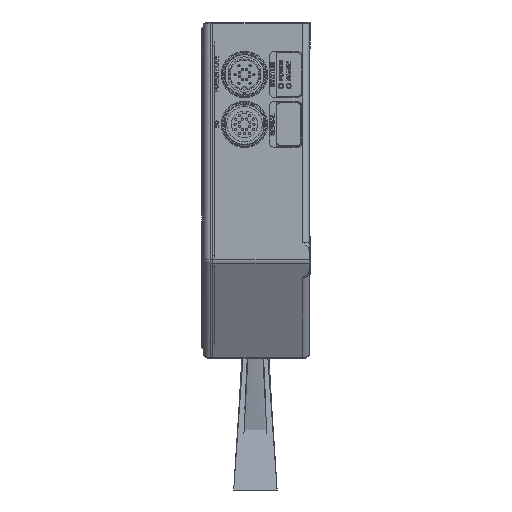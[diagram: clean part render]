
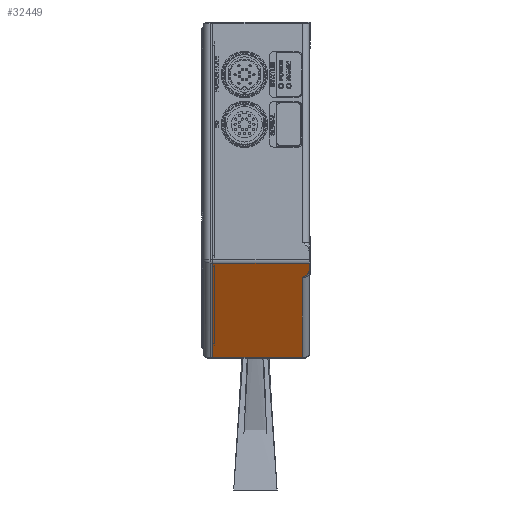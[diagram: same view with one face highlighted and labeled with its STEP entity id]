
A CAD part, left-side view. The second image highlights one B-rep face of the part: STEP entity #32449.
In plain terms, the highlighted planar face has unit normal (-0.866, 0, -0.5).
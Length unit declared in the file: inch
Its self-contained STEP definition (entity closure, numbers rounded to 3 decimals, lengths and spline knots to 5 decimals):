
#1449 = B_SPLINE_CURVE_WITH_KNOTS ( 'NONE', 3,
 ( #34254, #44490, #19051, #39728, #59904, #60349, #55337, #3740, #34031, #8963, #34923, #8743, #24267, #45137, #60568, #3967, #29247, #14136, #54899, #65519, #13691, #40148, #50315, #23811, #60119, #3315, #65285, #65071, #3096, #49874, #34482, #28822, #45365, #19260, #55573, #24035 ),
 .UNSPECIFIED., .F., .F.,
 ( 4, 1, 1, 1, 1, 1, 2, 2, 1, 1, 1, 1, 2, 2, 1, 1, 1, 1, 2, 2, 1, 1, 1, 2, 2, 4 ),
 ( 0., 0.0625, 0.09375, 0.10937, 0.11719, 0.12109, 0.12305, 0.125, 0.1875, 0.21875, 0.23437, 0.24219, 0.24609, 0.25, 0.375, 0.4375, 0.46875, 0.48437, 0.49219, 0.5, 0.625, 0.6875, 0.71875, 0.73437, 0.75, 1. ),
 .UNSPECIFIED. ) ;
#2640 = DIRECTION ( 'NONE',  ( -0.5, 0., 0.866 ) ) ;
#2841 = ORIENTED_EDGE ( 'NONE', *, *, #55407, .T. ) ;
#3096 = CARTESIAN_POINT ( 'NONE',  ( -3.37333, 0.03582, -0.3135 ) ) ;
#3315 = CARTESIAN_POINT ( 'NONE',  ( -3.35839, 0.05701, -0.33938 ) ) ;
#3740 = CARTESIAN_POINT ( 'NONE',  ( -3.33506, 0.11628, -0.37979 ) ) ;
#3967 = CARTESIAN_POINT ( 'NONE',  ( -3.34173, 0.0955, -0.36824 ) ) ;
#5754 = EDGE_CURVE ( 'NONE', #41004, #11049, #39703, .T. ) ;
#7724 = VERTEX_POINT ( 'NONE', #15791 ) ;
#8487 = CARTESIAN_POINT ( 'NONE',  ( -3.32877, 0.1378, -0.39068 ) ) ;
#8743 = CARTESIAN_POINT ( 'NONE',  ( -3.33812, 0.10631, -0.37449 ) ) ;
#8963 = CARTESIAN_POINT ( 'NONE',  ( -3.33511, 0.11609, -0.3797 ) ) ;
#10609 = DIRECTION ( 'NONE',  ( 0., 1., 0. ) ) ;
#10890 = VERTEX_POINT ( 'NONE', #51624 ) ;
#10961 = CARTESIAN_POINT ( 'NONE',  ( -3.40446, 0.18895, -0.25959 ) ) ;
#11049 = VERTEX_POINT ( 'NONE', #63626 ) ;
#12954 = DIRECTION ( 'NONE',  ( -0.5, 0., 0.866 ) ) ;
#13102 = EDGE_CURVE ( 'NONE', #10890, #15463, #55150, .T. ) ;
#13691 = CARTESIAN_POINT ( 'NONE',  ( -3.35358, 0.06617, -0.34771 ) ) ;
#14136 = CARTESIAN_POINT ( 'NONE',  ( -3.34191, 0.09496, -0.36792 ) ) ;
#15463 = VERTEX_POINT ( 'NONE', #32516 ) ;
#15526 = CARTESIAN_POINT ( 'NONE',  ( -3.47827, 0.15748, -0.13174 ) ) ;
#15791 = CARTESIAN_POINT ( 'NONE',  ( -3.40446, 0.01969, -0.25959 ) ) ;
#16004 = EDGE_CURVE ( 'NONE', #32023, #28263, #41053, .T. ) ;
#19051 = CARTESIAN_POINT ( 'NONE',  ( -3.33198, 0.12666, -0.38512 ) ) ;
#19260 = CARTESIAN_POINT ( 'NONE',  ( -3.38786, 0.02314, -0.28833 ) ) ;
#19483 = ORIENTED_EDGE ( 'NONE', *, *, #35291, .T. ) ;
#20917 = VECTOR ( 'NONE', #53561, 39.37008 ) ;
#23811 = CARTESIAN_POINT ( 'NONE',  ( -3.35787, 0.05794, -0.34028 ) ) ;
#24035 = CARTESIAN_POINT ( 'NONE',  ( -3.40446, 0.01969, -0.25959 ) ) ;
#24267 = CARTESIAN_POINT ( 'NONE',  ( -3.34009, 0.10032, -0.37108 ) ) ;
#26499 = ORIENTED_EDGE ( 'NONE', *, *, #13102, .F. ) ;
#28263 = VERTEX_POINT ( 'NONE', #8487 ) ;
#28822 = CARTESIAN_POINT ( 'NONE',  ( -3.37892, 0.03054, -0.30382 ) ) ;
#29247 = CARTESIAN_POINT ( 'NONE',  ( -3.34186, 0.09511, -0.36801 ) ) ;
#29392 = DIRECTION ( 'NONE',  ( 0.866, 0., 0.5 ) ) ;
#30187 = ORIENTED_EDGE ( 'NONE', *, *, #5754, .T. ) ;
#32023 = VERTEX_POINT ( 'NONE', #61446 ) ;
#32387 = VECTOR ( 'NONE', #2640, 39.37008 ) ;
#32449 = ADVANCED_FACE ( 'NONE', ( #64126 ), #60929, .F. ) ;
#32516 = CARTESIAN_POINT ( 'NONE',  ( -3.47827, 1.73425, -0.13174 ) ) ;
#32862 = CARTESIAN_POINT ( 'NONE',  ( -3.40446, 0.01575, -0.25959 ) ) ;
#33948 = CARTESIAN_POINT ( 'NONE',  ( -2.50841, 1.73425, -1.81159 ) ) ;
#34031 = CARTESIAN_POINT ( 'NONE',  ( -3.3351, 0.11612, -0.37971 ) ) ;
#34254 = CARTESIAN_POINT ( 'NONE',  ( -3.32877, 0.1378, -0.39068 ) ) ;
#34482 = CARTESIAN_POINT ( 'NONE',  ( -3.37798, 0.03136, -0.30545 ) ) ;
#34923 = CARTESIAN_POINT ( 'NONE',  ( -3.33636, 0.11197, -0.37754 ) ) ;
#35291 = EDGE_CURVE ( 'NONE', #7724, #41004, #51628, .T. ) ;
#37886 = VECTOR ( 'NONE', #62110, 39.37008 ) ;
#37897 = DIRECTION ( 'NONE',  ( -0.5, 0., 0.866 ) ) ;
#39494 = CARTESIAN_POINT ( 'NONE',  ( -3.49409, 0.01575, -0.10433 ) ) ;
#39703 = LINE ( 'NONE', #39494, #32387 ) ;
#39728 = CARTESIAN_POINT ( 'NONE',  ( -3.33371, 0.1208, -0.38213 ) ) ;
#40148 = CARTESIAN_POINT ( 'NONE',  ( -3.35607, 0.06127, -0.34339 ) ) ;
#40498 = ORIENTED_EDGE ( 'NONE', *, *, #52241, .T. ) ;
#41004 = VERTEX_POINT ( 'NONE', #32862 ) ;
#41053 = LINE ( 'NONE', #48731, #48305 ) ;
#44411 = ORIENTED_EDGE ( 'NONE', *, *, #16004, .T. ) ;
#44477 = AXIS2_PLACEMENT_3D ( 'NONE', #61147, #29392, #45728 ) ;
#44490 = CARTESIAN_POINT ( 'NONE',  ( -3.33015, 0.13299, -0.38829 ) ) ;
#44589 = LINE ( 'NONE', #15526, #60007 ) ;
#45137 = CARTESIAN_POINT ( 'NONE',  ( -3.34105, 0.09747, -0.36941 ) ) ;
#45365 = CARTESIAN_POINT ( 'NONE',  ( -3.37937, 0.03016, -0.30304 ) ) ;
#45728 = DIRECTION ( 'NONE',  ( 0., -1., 0. ) ) ;
#48305 = VECTOR ( 'NONE', #37897, 39.37008 ) ;
#48731 = CARTESIAN_POINT ( 'NONE',  ( -3.32877, 0.1378, -0.39068 ) ) ;
#49874 = CARTESIAN_POINT ( 'NONE',  ( -3.37657, 0.03263, -0.30789 ) ) ;
#50315 = CARTESIAN_POINT ( 'NONE',  ( -3.35733, 0.05893, -0.34121 ) ) ;
#51624 = CARTESIAN_POINT ( 'NONE',  ( -2.50841, 1.73425, -1.81159 ) ) ;
#51628 = LINE ( 'NONE', #10961, #37886 ) ;
#51884 = VECTOR ( 'NONE', #12954, 39.37008 ) ;
#52241 = EDGE_CURVE ( 'NONE', #28263, #7724, #1449, .T. ) ;
#52565 = LINE ( 'NONE', #63971, #20917 ) ;
#53561 = DIRECTION ( 'NONE',  ( 0., -1., 0. ) ) ;
#54899 = CARTESIAN_POINT ( 'NONE',  ( -3.34463, 0.08717, -0.36321 ) ) ;
#55150 = LINE ( 'NONE', #33948, #51884 ) ;
#55337 = CARTESIAN_POINT ( 'NONE',  ( -3.33498, 0.11652, -0.37992 ) ) ;
#55407 = EDGE_CURVE ( 'NONE', #11049, #15463, #44589, .T. ) ;
#55573 = CARTESIAN_POINT ( 'NONE',  ( -3.39606, 0.01979, -0.27413 ) ) ;
#58701 = EDGE_CURVE ( 'NONE', #10890, #32023, #52565, .T. ) ;
#59184 = ORIENTED_EDGE ( 'NONE', *, *, #58701, .T. ) ;
#59904 = CARTESIAN_POINT ( 'NONE',  ( -3.33446, 0.11826, -0.38082 ) ) ;
#60007 = VECTOR ( 'NONE', #10609, 39.37008 ) ;
#60119 = CARTESIAN_POINT ( 'NONE',  ( -3.35823, 0.05729, -0.33965 ) ) ;
#60349 = CARTESIAN_POINT ( 'NONE',  ( -3.33481, 0.11708, -0.38021 ) ) ;
#60568 = CARTESIAN_POINT ( 'NONE',  ( -3.34152, 0.09609, -0.36859 ) ) ;
#60929 = PLANE ( 'NONE',  #44477 ) ;
#61147 = CARTESIAN_POINT ( 'NONE',  ( -3.49409, 0.15748, -0.10433 ) ) ;
#61446 = CARTESIAN_POINT ( 'NONE',  ( -2.50841, 0.1378, -1.81159 ) ) ;
#62110 = DIRECTION ( 'NONE',  ( 0., -1., 0. ) ) ;
#63626 = CARTESIAN_POINT ( 'NONE',  ( -3.47827, 0.01575, -0.13174 ) ) ;
#63971 = CARTESIAN_POINT ( 'NONE',  ( -2.50841, 0.15748, -1.81159 ) ) ;
#64126 = FACE_OUTER_BOUND ( 'NONE', #64329, .T. ) ;
#64329 = EDGE_LOOP ( 'NONE', ( #26499, #59184, #44411, #40498, #19483, #30187, #2841 ) ) ;
#65071 = CARTESIAN_POINT ( 'NONE',  ( -3.36702, 0.04307, -0.32443 ) ) ;
#65285 = CARTESIAN_POINT ( 'NONE',  ( -3.36189, 0.05081, -0.33332 ) ) ;
#65519 = CARTESIAN_POINT ( 'NONE',  ( -3.34868, 0.07675, -0.3562 ) ) ;
